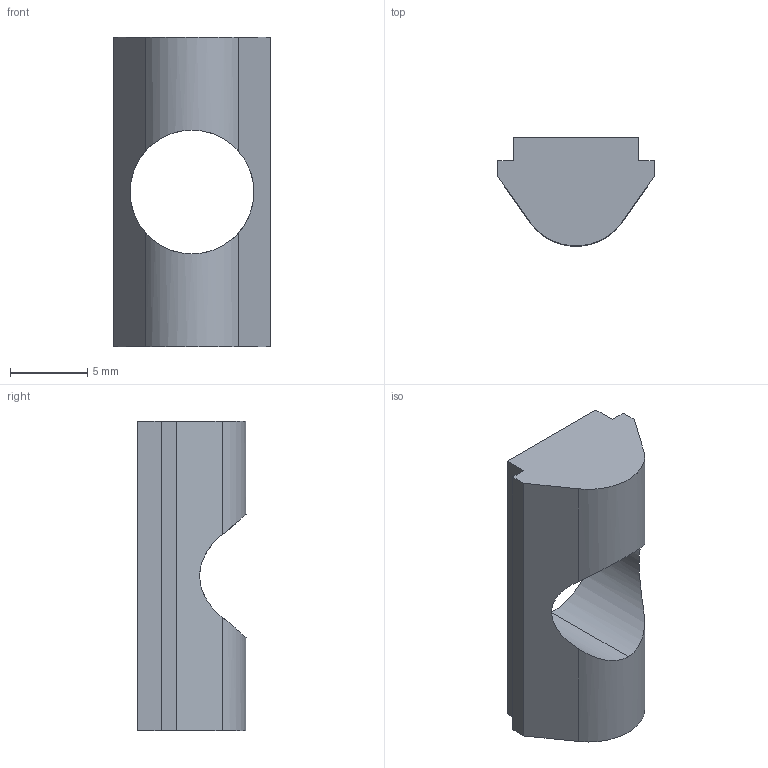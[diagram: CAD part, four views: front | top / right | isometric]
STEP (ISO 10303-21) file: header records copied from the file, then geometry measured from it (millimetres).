
FILE_DESCRIPTION (( 'STEP AP203' ), '1' );
FILE_NAME ('EN08M8.STEP', '2024-02-19T05:53:16', ( '' ), ( '' ), 'SwSTEP 2.0', 'SolidWorks 2022', '' );
FILE_SCHEMA (( 'CONFIG_CONTROL_DESIGN' ));
Length unit declared in the file: millimetre
Products named in the file (1): EN08M8
Bounding box: 10.1 x 7 x 20 mm (x, y, z)
Volume: 730.6 mm3; surface area: 717.8 mm2
Topology: 1 solids, 1 shells, 15 faces, 42 edges, 28 vertices
Faces by surface type: plane 11, cylinder 4
Entity records: 679 total; most frequent: CARTESIAN_POINT 218, ORIENTED_EDGE 84, DIRECTION 72, EDGE_CURVE 42, LINE 32, VECTOR 32, VERTEX_POINT 28, AXIS2_PLACEMENT_3D 20
